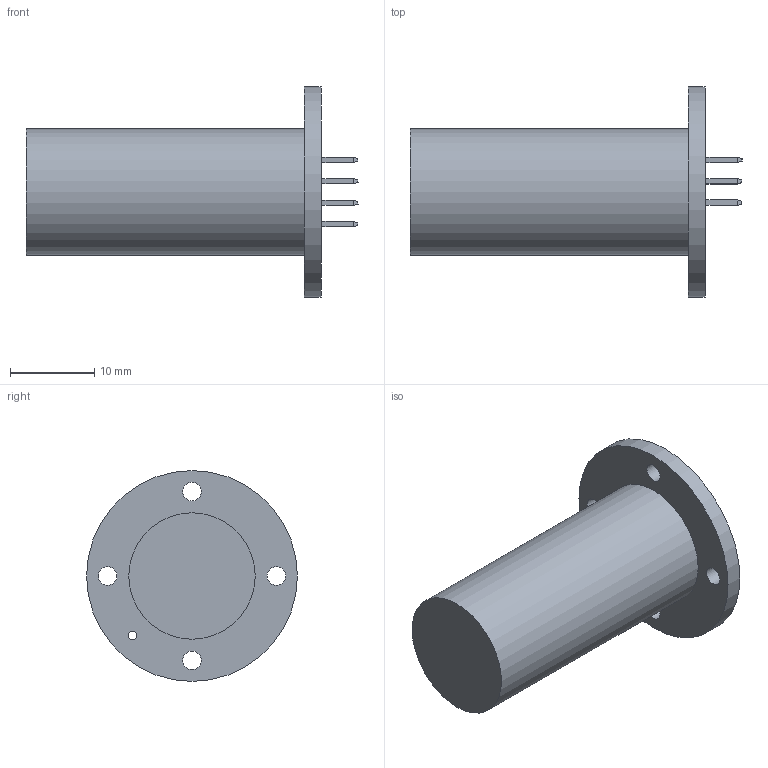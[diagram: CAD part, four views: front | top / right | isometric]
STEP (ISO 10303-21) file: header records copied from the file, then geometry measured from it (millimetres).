
FILE_DESCRIPTION(/* description */ (''),/* implementation_level */ '2;1');
FILE_NAME(/* name */ 'F:\daten\PRODUKTE\TELEMETR\SV\Mechanik\CAD\5a\PCMRMC\D15xL35\kunde\SV_5a_PCMRMC_D15xL35.stp',/* time_stamp */ '2019-09-03T09:42:48+02:00',/* author */ ('dschaefer'),/* organization */ (''),/* preprocessor_version */ 'ST-DEVELOPER v16.5',/* originating_system */ 'Autodesk Inventor 2017',/* authorisation */ '');
FILE_SCHEMA (('AUTOMOTIVE_DESIGN { 1 0 10303 214 3 1 1 }'));
Length unit declared in the file: millimetre
Products named in the file (1): SV_5a_PCMRMC_D15xL35
Bounding box: 39.38 x 25 x 25 mm (x, y, z)
Volume: 6751.5 mm3; surface area: 3079.2 mm2
Topology: 1 solids, 1 shells, 126 faces, 276 edges, 176 vertices
Faces by surface type: plane 106, cylinder 20
Full cylindrical faces by diameter (mm): 1 x12, 2.2 x4, 15 x1, 15.3 x1, 15.4 x1, 25 x1
Entity records: 3252 total; most frequent: DIRECTION 534, CARTESIAN_POINT 527, ORIENTED_EDGE 480, EDGE_CURVE 240, LINE 200, VECTOR 200, EDGE_LOOP 180, AXIS2_PLACEMENT_3D 167
